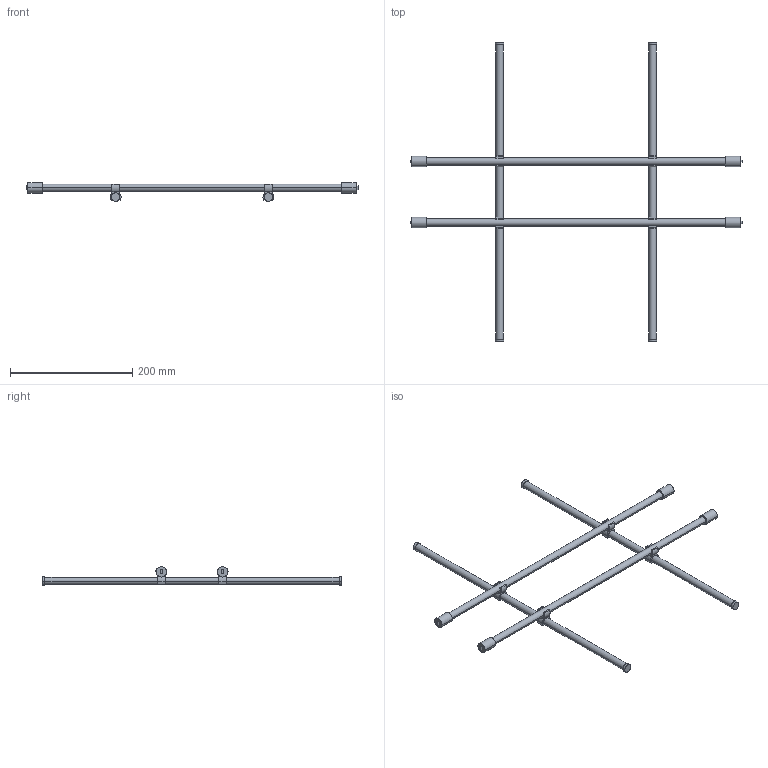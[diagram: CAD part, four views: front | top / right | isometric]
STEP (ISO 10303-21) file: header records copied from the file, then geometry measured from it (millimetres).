
FILE_DESCRIPTION (( 'STEP AP214' ), '1' );
FILE_NAME ('Magic-Classic_NL-525-KAB 600.step', '2010-09-16T12:49:21', ( 'grass' ), ( '' ), 'SwSTEP 2.0', 'SolidWorks 2010', '' );
FILE_SCHEMA (( 'AUTOMOTIVE_DESIGN' ));
Length unit declared in the file: millimetre
Products named in the file (1): Magic-Classic_NL-525-KAB 600
Bounding box: 543 x 490 x 30.45 mm (x, y, z)
Volume: 252856.8 mm3; surface area: 83968.2 mm2
Topology: 1 solids, 1 shells, 140 faces, 384 edges, 256 vertices
Faces by surface type: plane 76, cylinder 64
Entity records: 4546 total; most frequent: DIRECTION 826, CARTESIAN_POINT 781, ORIENTED_EDGE 768, EDGE_CURVE 384, AXIS2_PLACEMENT_3D 301, VERTEX_POINT 256, VECTOR 224, LINE 224
